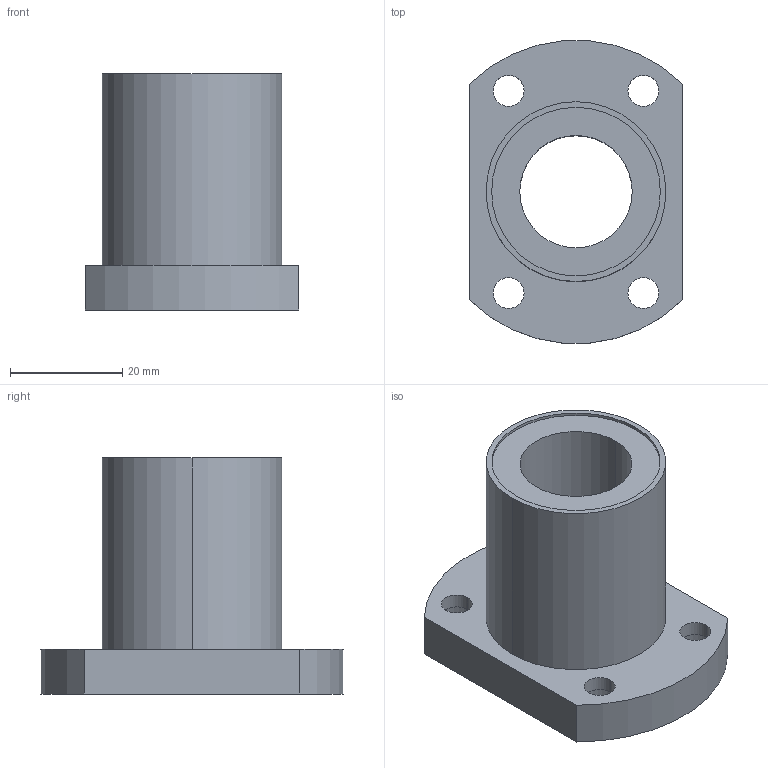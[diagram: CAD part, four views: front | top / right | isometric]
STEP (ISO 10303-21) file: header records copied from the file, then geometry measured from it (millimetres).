
FILE_DESCRIPTION((''),'2;1');
FILE_NAME('C:\Documents and Settings\ｿﾀﾀ蠑ｷ1\ｹﾙﾅﾁ ﾈｭｸ饅\ｺﾎﾇｰﾆﾄﾀﾏ\ﾁｦﾇｰ\LMH__UU\LMH20UU.stp','2005-06-15T10:36:11',('ｿﾀﾀ蠑ｷ1'),(''),'Autodesk Inventor 9','Autodesk Inventor 9','');
FILE_SCHEMA(('AUTOMOTIVE_DESIGN { 1 0 10303 214 1 1 1 1 }'));
Length unit declared in the file: millimetre
Products named in the file (1): LMH__
Bounding box: 38 x 53.8 x 42 mm (x, y, z)
Volume: 26670.5 mm3; surface area: 11135.7 mm2
Topology: 1 solids, 1 shells, 40 faces, 90 edges, 60 vertices
Faces by surface type: cylinder 28, plane 12
Entity records: 1193 total; most frequent: DIRECTION 228, CARTESIAN_POINT 191, ORIENTED_EDGE 180, AXIS2_PLACEMENT_3D 97, EDGE_CURVE 90, VERTEX_POINT 60, EDGE_LOOP 58, CIRCLE 56
